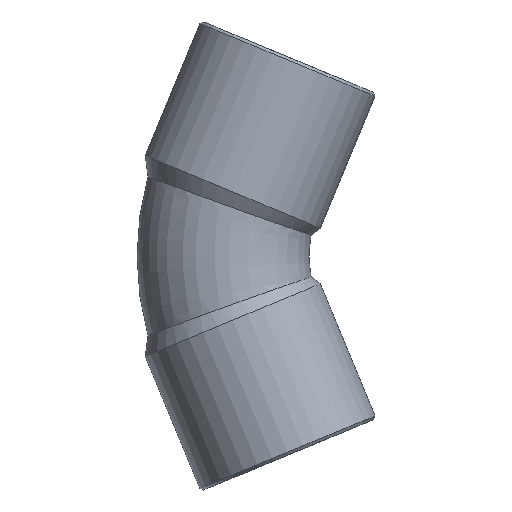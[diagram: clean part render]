
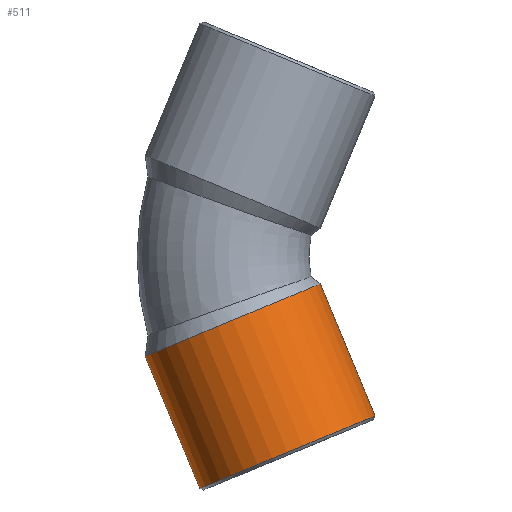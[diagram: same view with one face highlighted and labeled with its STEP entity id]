
A CAD part, front view. The second image highlights one B-rep face of the part: STEP entity #511.
In plain terms, the highlighted cylindrical face has radius 6.6 mm (diameter 13.2 mm), a partial arc.
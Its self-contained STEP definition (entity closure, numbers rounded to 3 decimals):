
#201=CARTESIAN_POINT('',(-15.397,0.,-6.997));
#202=VERTEX_POINT('',#201);
#209=CARTESIAN_POINT('',(-3.202,0.,-1.945));
#210=VERTEX_POINT('',#209);
#211=CARTESIAN_POINT('',(-9.3,0.,-4.471));
#212=DIRECTION('',(-0.383,0.,0.924));
#213=DIRECTION('',(0.924,0.0,0.383));
#214=AXIS2_PLACEMENT_3D('',#211,#212,#213);
#215=CIRCLE('',#214,6.6);
#216=EDGE_CURVE('',#202,#210,#215,.T.);
#480=CARTESIAN_POINT('',(-9.238,0.,-4.619));
#481=DIRECTION('',(0.383,0.,-0.924));
#482=DIRECTION('',(0.924,0.0,0.383));
#483=AXIS2_PLACEMENT_3D('',#480,#481,#482);
#484=CYLINDRICAL_SURFACE('',#483,6.6);
#485=CARTESIAN_POINT('',(0.61,0.,-11.148));
#486=VERTEX_POINT('',#485);
#487=CARTESIAN_POINT('',(-3.202,0.,-1.945));
#488=DIRECTION('',(0.383,0.,-0.924));
#489=VECTOR('',#488,9.961);
#490=LINE('',#487,#489);
#491=EDGE_CURVE('',#210,#486,#490,.T.);
#492=ORIENTED_EDGE('',*,*,#491,.F.);
#493=ORIENTED_EDGE('',*,*,#216,.F.);
#494=CARTESIAN_POINT('',(-11.585,0.,-16.199));
#495=VERTEX_POINT('',#494);
#496=CARTESIAN_POINT('',(-11.585,0.,-16.199));
#497=DIRECTION('',(-0.383,0.,0.924));
#498=VECTOR('',#497,9.961);
#499=LINE('',#496,#498);
#500=EDGE_CURVE('',#495,#202,#499,.T.);
#501=ORIENTED_EDGE('',*,*,#500,.F.);
#502=CARTESIAN_POINT('',(-5.488,0.,-13.673));
#503=DIRECTION('',(0.383,0.,-0.924));
#504=DIRECTION('',(0.924,0.0,0.383));
#505=AXIS2_PLACEMENT_3D('',#502,#503,#504);
#506=CIRCLE('',#505,6.6);
#507=EDGE_CURVE('',#486,#495,#506,.T.);
#508=ORIENTED_EDGE('',*,*,#507,.F.);
#509=EDGE_LOOP('',(#492,#493,#501,#508));
#510=FACE_OUTER_BOUND('',#509,.T.);
#511=ADVANCED_FACE('',(#510),#484,.T.);
